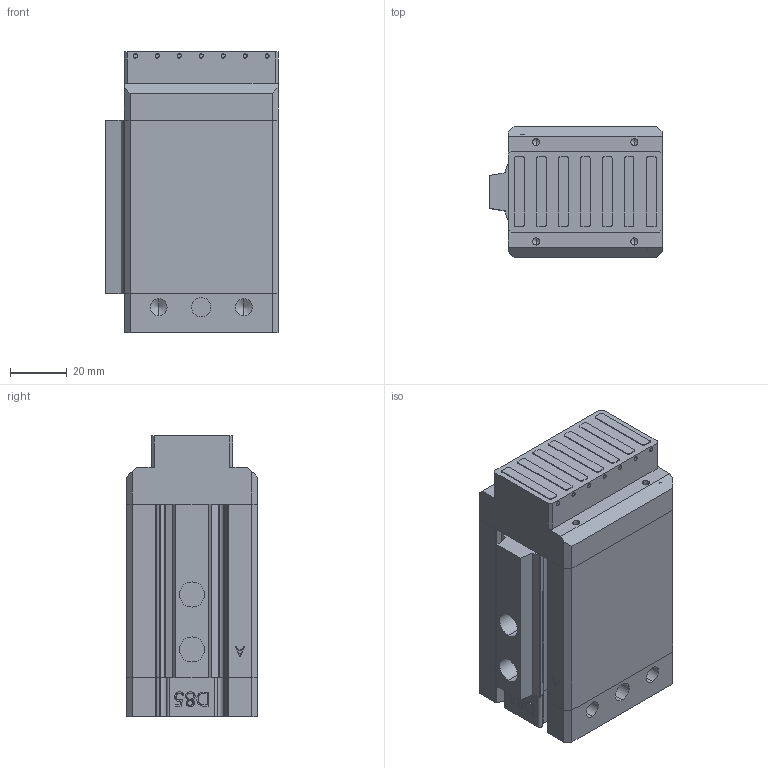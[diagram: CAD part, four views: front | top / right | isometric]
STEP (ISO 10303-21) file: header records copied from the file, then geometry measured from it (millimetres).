
FILE_DESCRIPTION (( 'STEP AP203' ), '1' );
FILE_NAME ('81401267_p.STEP', '2022-11-21T22:36:57', ( '' ), ( '' ), 'SwSTEP 2.0', 'SolidWorks 2018', '' );
FILE_SCHEMA (( 'CONFIG_CONTROL_DESIGN' ));
Length unit declared in the file: millimetre
Products named in the file (2): 81401267_p
Bounding box: 60.5 x 46 x 99 mm (x, y, z)
Volume: 227006.4 mm3; surface area: 52901.6 mm2
Topology: 24 solids, 26 shells, 1743 faces, 4604 edges, 3003 vertices
Faces by surface type: plane 813, cylinder 502, bspline 271, cone 157
Entity records: 75368 total; most frequent: CARTESIAN_POINT 34812, ORIENTED_EDGE 9144, DIRECTION 7193, EDGE_CURVE 4572, VERTEX_POINT 3003, VECTOR 2837, LINE 2837, AXIS2_PLACEMENT_3D 2178
